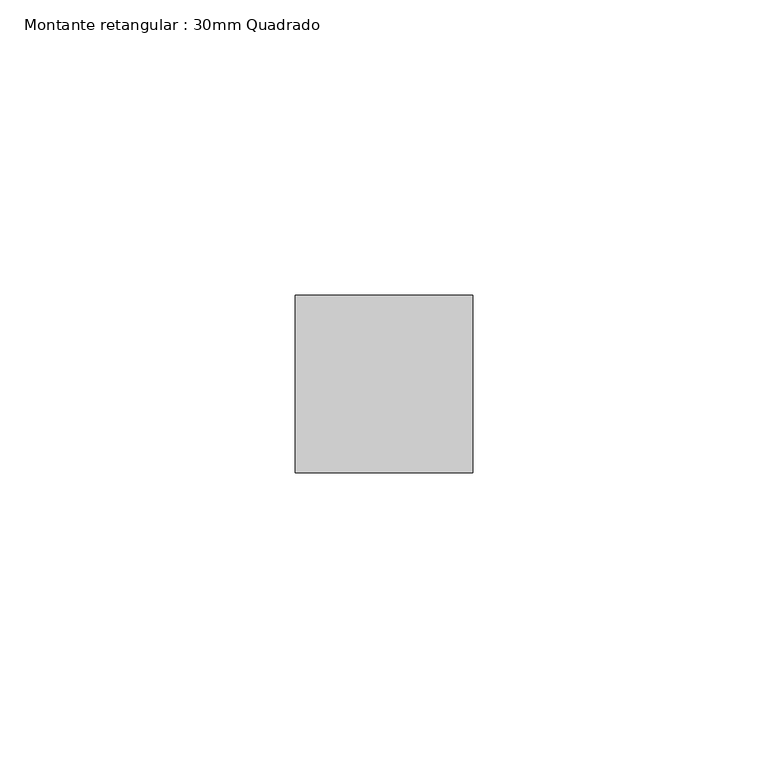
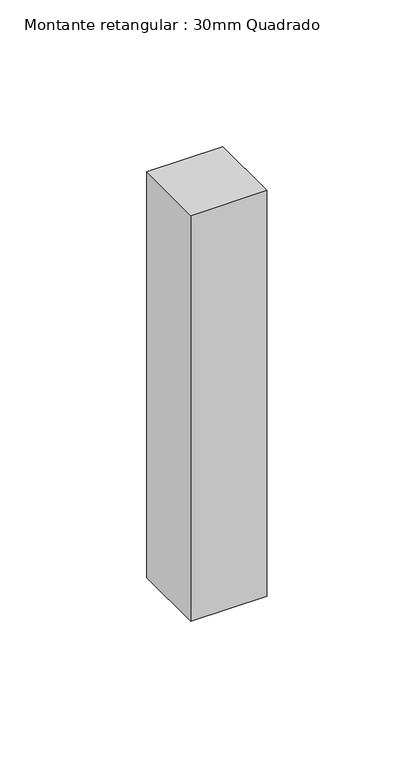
"""IFC4 building model written with IfcOpenShell, lengths in millimetres: member geometry, Montante retangular : 30mm Quadrado."""

from ifc_helpers import new_model, si_unit, frame, origin, place, context, project, spatial, polyline, outline, extrude, source, transform, mapped, element, save


def montante_retangular_30mm_quadrado_ca4ccd1e(model_context):
    return source(origin(), model_context, "Body", "SweptSolid", [
        extrude(outline(polyline([(0.0, 15.0), (0.0, -15.0), (-30.0, -15.0), (-30.0, 15.0), (0.0, 15.0)])), frame((0.0, 0.0, -168.8499664), z_axis=(0.0, 0.0, 1.0), x_axis=(1.0, 0.0, 0.0)), (0.0, 0.0, 1.0), 168.8499664),
    ])


if __name__ == "__main__":
    model = new_model("IFC4")
    model_context = context("Model", 3, world=origin())
    ifc_project = project(units=[si_unit("LENGTHUNIT", "METRE", prefix="MILLI")], contexts=[model_context])
    site = spatial("IfcSite", under=ifc_project)
    building = spatial("IfcBuilding", under=site)
    placement = place(None, origin())
    montante_retangular_30mm_quadrado_shape = montante_retangular_30mm_quadrado_ca4ccd1e(model_context)
    element("IfcMember", 1, ObjectType="Montante retangular : 30mm Quadrado", at=placement, inside=building, context=model_context, shape_type="MappedRepresentation", body=[
        mapped(montante_retangular_30mm_quadrado_shape, transform((0.0, 0.0, 0.0), x_axis=(1.0, 0.0, 0.0), y_axis=(0.0, 1.0, 0.0), z_axis=(0.0, 0.0, 1.0))),
    ])
    save(model, "model.ifc")
